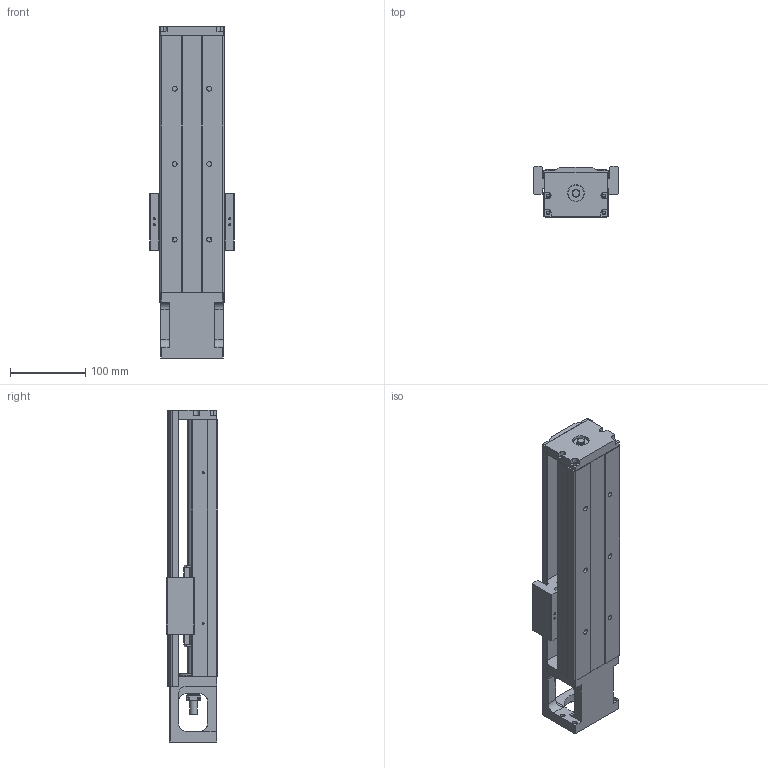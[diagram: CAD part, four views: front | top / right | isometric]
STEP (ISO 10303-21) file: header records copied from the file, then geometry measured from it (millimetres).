
FILE_DESCRIPTION(/* description */ (''),/* implementation_level */ '2;1');
FILE_NAME(/* name */ 'KP46N-340-C-D.stp',/* time_stamp */ '2020-06-05T09:49:20+08:00',/* author */ (''),/* organization */ (''),/* preprocessor_version */ 'ST-DEVELOPER v14',/* originating_system */ 'SIEMENS PLM Software NX 8.0',/* authorisation */ '');
FILE_SCHEMA (('AUTOMOTIVE_DESIGN { 1 0 10303 214 3 1 1 1 }'));
Length unit declared in the file: millimetre
Products named in the file (1): model1
Bounding box: 112 x 68 x 440 mm (x, y, z)
Volume: 1355473.8 mm3; surface area: 323303.3 mm2
Topology: 7 solids, 15 shells, 671 faces, 1755 edges, 1158 vertices
Faces by surface type: plane 335, cylinder 241, cone 52, bspline 35, torus 8
Full cylindrical faces by diameter (mm): 2.11 x4, 2.15 x4, 2.42 x8, 2.5 x4, 3 x6, 3.2 x4, 3.3 x12, 3.4 x8, 4 x4, 4.2 x4, 4.5 x8, 5 x14, 6 x8, 6.35 x2, 6.6 x6, 9.6 x1, 10 x4, 11 x6, 12 x1, 14.95 x2, 15 x1, 16 x2, 22 x3, 27.5 x1, 44 x1, 50 x1
Entity records: 30881 total; most frequent: CARTESIAN_POINT 12551, ORIENTED_EDGE 3050, DIRECTION 3036, EDGE_CURVE 1525, AXIS2_PLACEMENT_3D 1102, VERTEX_POINT 1093, EDGE_LOOP 940, LINE 832
